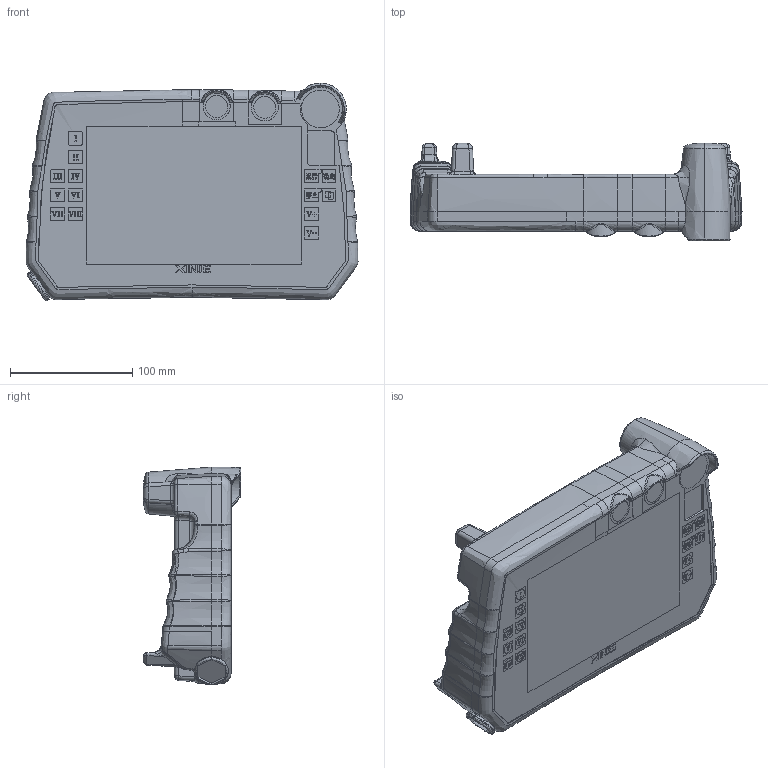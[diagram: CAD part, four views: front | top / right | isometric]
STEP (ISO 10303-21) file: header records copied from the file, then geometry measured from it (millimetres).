
FILE_DESCRIPTION(/* description */ (''),/* implementation_level */ '2;1');
FILE_NAME(/* name */ 'RT750',/* time_stamp */ '2022-12-27T10:30:59+08:00',/* author */ (''),/* organization */ (''),/* preprocessor_version */ 'ST-DEVELOPER v16.5',/* originating_system */ '',/* authorisation */ '');
FILE_SCHEMA (('CONFIG_CONTROL_DESIGN'));
Products named in the file (1): Document
Bounding box: 272.02 x 80 x 178.48 mm (x, y, z)
Volume: 1935267.7 mm3; surface area: 92890.8 mm2
Topology: 1 solids, 64 shells, 586 faces, 1907 edges, 1378 vertices
Faces by surface type: bspline 298, plane 166, cylinder 122
Entity records: 709841 total; most frequent: CARTESIAN_POINT 698880, ORIENTED_EDGE 3119, EDGE_CURVE 1874, B_SPLINE_CURVE_WITH_KNOTS 1549, VERTEX_POINT 1378, EDGE_LOOP 613, ADVANCED_FACE 586, FACE_OUTER_BOUND 586
